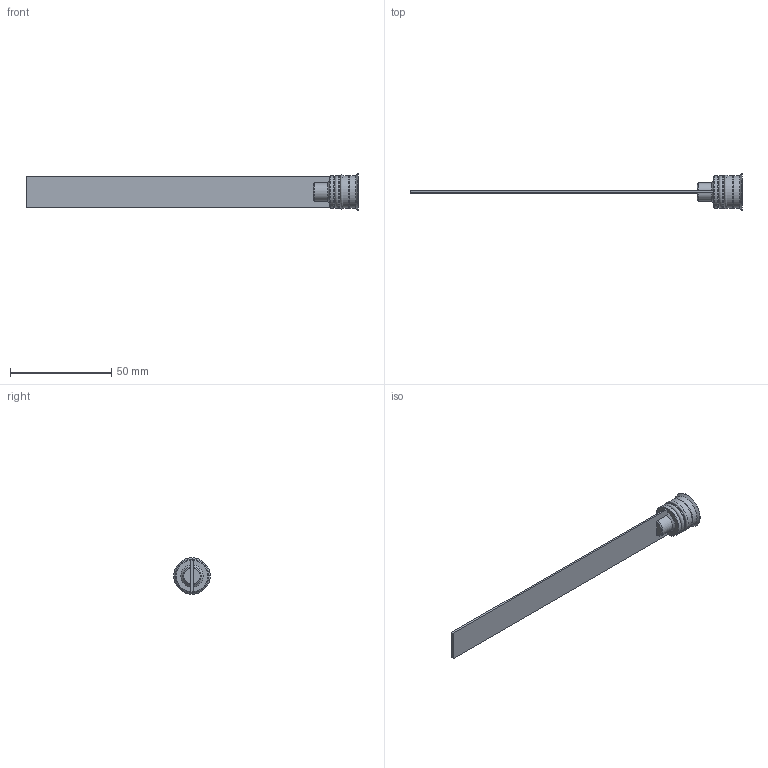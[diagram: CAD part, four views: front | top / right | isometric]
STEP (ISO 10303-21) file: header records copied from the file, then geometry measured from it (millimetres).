
FILE_DESCRIPTION( ( 'STEP AP214' ), '1' );
FILE_NAME( 'p:/temp/worker_257/temp/exporttempdir_4644_383_JDMWf/format_0/RL-16Fx150P (lama 15.5mm).stp', '2021-02-05T19:45:10', ( 'License CC BY-ND 4.0' ), ( 'CADENAS' ), ' ', 'PARTsolutions', ' ' );
FILE_SCHEMA( ( 'AUTOMOTIVE_DESIGN { 1 0 10303 214 1 1 1 1 }' ) );
Length unit declared in the file: millimetre
Products named in the file (1): _RL-16Fx150P (lama 15.5mm)
Bounding box: 164 x 18 x 18 mm (x, y, z)
Volume: 5321.3 mm3; surface area: 6772.7 mm2
Topology: 1 solids, 1 shells, 52 faces, 123 edges, 79 vertices
Faces by surface type: plane 28, cone 11, cylinder 10, torus 3
Full cylindrical faces by diameter (mm): 10 x1, 16 x4, 18 x1
Entity records: 1866 total; most frequent: CARTESIAN_POINT 287, DIRECTION 232, ORIENTED_EDGE 216, EDGE_CURVE 108, AXIS2_PLACEMENT_3D 85, VERTEX_POINT 80, EDGE_LOOP 72, LINE 62
